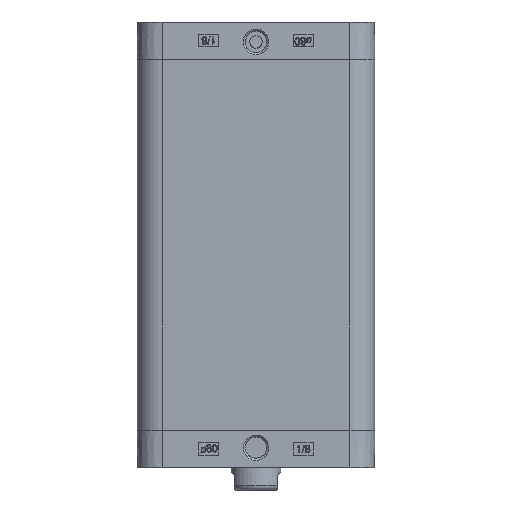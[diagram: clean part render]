
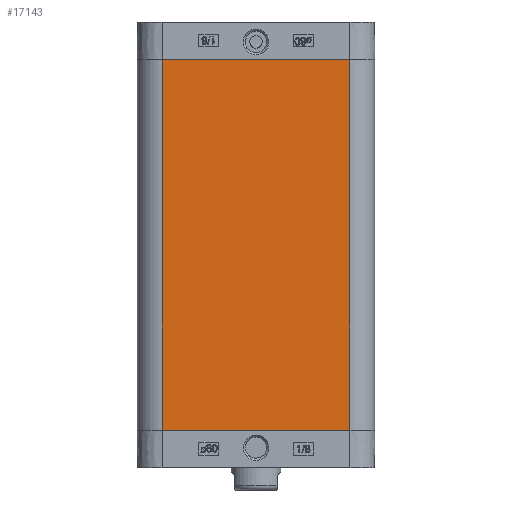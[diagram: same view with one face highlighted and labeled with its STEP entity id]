
A CAD part, left-side view. The second image highlights one B-rep face of the part: STEP entity #17143.
In plain terms, the highlighted planar face has unit normal (-1, 0, 0).
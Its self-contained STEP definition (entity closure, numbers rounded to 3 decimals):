
#1009=PLANE('',#18142);
#1917=LINE('',#26685,#2985);
#1918=LINE('',#26687,#2986);
#1919=LINE('',#26689,#2987);
#1920=LINE('',#26691,#2988);
#2985=VECTOR('',#20961,1000.);
#2986=VECTOR('',#20964,1000.);
#2987=VECTOR('',#20965,1000.);
#2988=VECTOR('',#20966,1000.);
#6166=ORIENTED_EDGE('',*,*,#8321,.T.);
#6167=ORIENTED_EDGE('',*,*,#8320,.F.);
#6168=ORIENTED_EDGE('',*,*,#8322,.F.);
#6169=ORIENTED_EDGE('',*,*,#8323,.T.);
#8320=EDGE_CURVE('',#9692,#9689,#1917,.T.);
#8321=EDGE_CURVE('',#9693,#9689,#1918,.T.);
#8322=EDGE_CURVE('',#9694,#9692,#1919,.T.);
#8323=EDGE_CURVE('',#9694,#9693,#1920,.T.);
#9689=VERTEX_POINT('',#26679);
#9692=VERTEX_POINT('',#26684);
#9693=VERTEX_POINT('',#26688);
#9694=VERTEX_POINT('',#26690);
#11129=EDGE_LOOP('',(#6166,#6167,#6168,#6169));
#12046=FACE_BOUND('',#11129,.T.);
#17143=ADVANCED_FACE('',(#12046),#1009,.T.);
#18142=AXIS2_PLACEMENT_3D('',#26686,#20962,#20963);
#20961=DIRECTION('',(0.,0.,1.));
#20962=DIRECTION('',(-1.,0.,0.));
#20963=DIRECTION('',(0.,0.,1.));
#20964=DIRECTION('',(0.,1.,0.));
#20965=DIRECTION('',(0.,1.,0.));
#20966=DIRECTION('',(0.,0.,1.));
#26679=CARTESIAN_POINT('',(-47.75,37.75,29.));
#26684=CARTESIAN_POINT('',(-47.75,37.75,-120.));
#26685=CARTESIAN_POINT('',(-47.75,37.75,0.));
#26686=CARTESIAN_POINT('',(-47.75,-37.75,0.));
#26687=CARTESIAN_POINT('',(-47.75,-37.75,29.));
#26688=CARTESIAN_POINT('',(-47.75,-37.75,29.));
#26689=CARTESIAN_POINT('',(-47.75,-37.75,-120.));
#26690=CARTESIAN_POINT('',(-47.75,-37.75,-120.));
#26691=CARTESIAN_POINT('',(-47.75,-37.75,0.));
